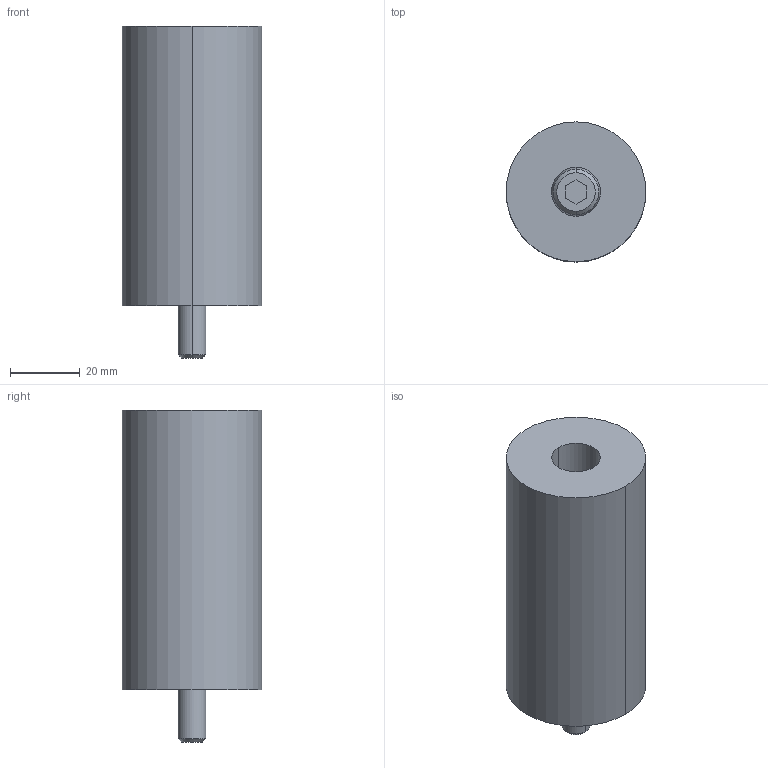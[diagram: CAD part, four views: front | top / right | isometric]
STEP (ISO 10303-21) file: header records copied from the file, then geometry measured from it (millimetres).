
FILE_DESCRIPTION(/* description */ (''),/* implementation_level */ '2;1');
FILE_NAME(/* name */ '3d_esub40-80_07039_r00.stp',/* time_stamp */ '2011-01-10T14:15:39+09:00',/* author */ ('MISUMI'),/* organization */ (''),/* preprocessor_version */ 'ST-DEVELOPER v11',/* originating_system */ 'UGS - NX 5.0',/* authorisation */ '');
FILE_SCHEMA (('CONFIG_CONTROL_DESIGN'));
Length unit declared in the file: millimetre
Products named in the file (1): 3d_esub40-80_07039_r00
Bounding box: 40 x 40 x 95 mm (x, y, z)
Volume: 95592.6 mm3; surface area: 20095.8 mm2
Topology: 3 solids, 3 shells, 36 faces, 74 edges, 46 vertices
Faces by surface type: cylinder 14, plane 14, cone 8
Entity records: 1042 total; most frequent: DIRECTION 182, CARTESIAN_POINT 157, ORIENTED_EDGE 148, EDGE_CURVE 74, AXIS2_PLACEMENT_3D 71, VERTEX_POINT 46, EDGE_LOOP 42, LINE 40
